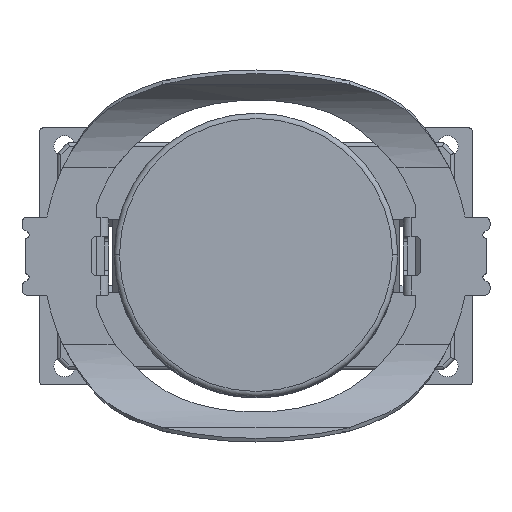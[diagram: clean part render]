
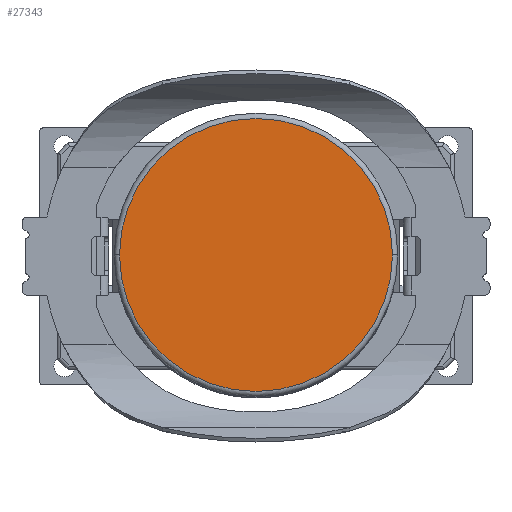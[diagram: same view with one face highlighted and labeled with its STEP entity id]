
A CAD part, top view. The second image highlights one B-rep face of the part: STEP entity #27343.
In plain terms, the highlighted planar face has unit normal (0, 0, 1).
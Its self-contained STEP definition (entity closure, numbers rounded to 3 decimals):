
#26226=CARTESIAN_POINT('',(0.,0.,0.5));
#26227=DIRECTION('',(0.,0.,1.));
#26228=DIRECTION('',(-1.,0.,0.));
#26229=AXIS2_PLACEMENT_3D('',#26226,#26227,#26228);
#26231=CARTESIAN_POINT('',(0.,0.,0.5));
#26232=DIRECTION('',(0.,0.,1.));
#26233=DIRECTION('',(1.,0.,0.));
#26234=AXIS2_PLACEMENT_3D('',#26231,#26232,#26233);
#27004=CARTESIAN_POINT('',(-3.85,0.,0.5));
#27005=CARTESIAN_POINT('',(3.85,0.,0.5));
#27006=VERTEX_POINT('',#27004);
#27007=VERTEX_POINT('',#27005);
#27334=CARTESIAN_POINT('',(0.,0.,0.5));
#27335=DIRECTION('',(0.,0.,1.));
#27336=DIRECTION('',(-1.,0.,0.));
#27337=AXIS2_PLACEMENT_3D('',#27334,#27335,#27336);
#27338=PLANE('',#27337);
#27339=ORIENTED_EDGE('',*,*,#27313,.F.);
#27340=ORIENTED_EDGE('',*,*,#27326,.F.);
#27341=EDGE_LOOP('',(#27339,#27340));
#27342=FACE_OUTER_BOUND('',#27341,.F.);
#27343=ADVANCED_FACE('',(#27342),#27338,.T.);
#26230=CIRCLE('',#26229,3.85);
#26235=CIRCLE('',#26234,3.85);
#27313=EDGE_CURVE('',#27006,#27007,#26230,.T.);
#27326=EDGE_CURVE('',#27007,#27006,#26235,.T.);
